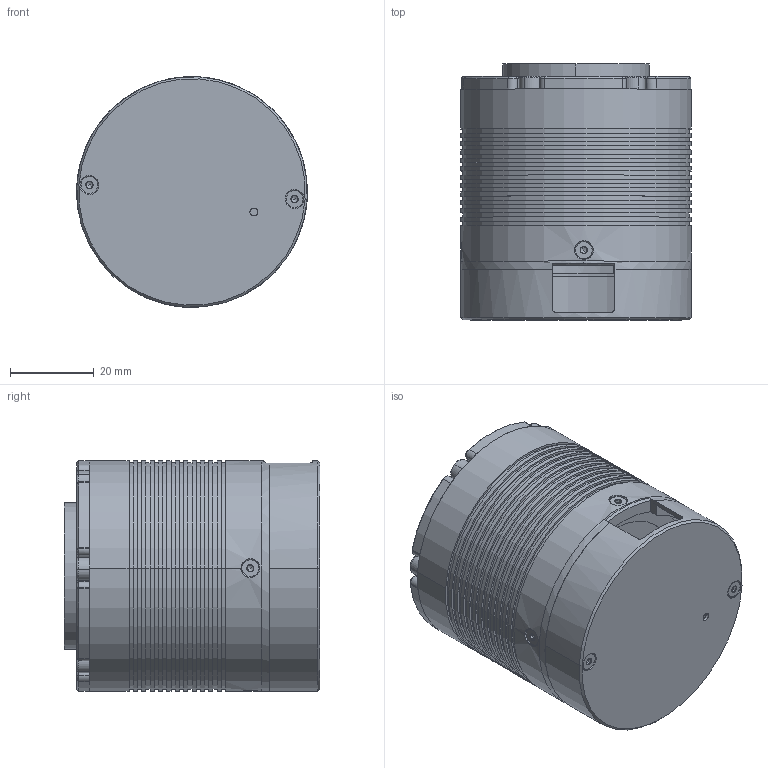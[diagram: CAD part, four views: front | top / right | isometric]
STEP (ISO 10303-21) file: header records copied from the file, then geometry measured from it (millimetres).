
FILE_DESCRIPTION (( 'STEP AP203' ), '1' );
FILE_NAME ('X4-P36-36.STEP', '2025-10-23T04:12:23', ( '微软用户' ), ( '微软中国' ), 'SwSTEP 2.0', 'SolidWorks 2020', '' );
FILE_SCHEMA (( 'CONFIG_CONTROL_DESIGN' ));
Length unit declared in the file: millimetre
Products named in the file (10): XMT.105.027; X4-P36-36; 8MT.013.030; 8MT.034.008; M2X4; XMT.105.019; XMT.105.003; XMT.105.011_Default<偌樓馱>; M2X12; GB_FASTENER_SCREWS_HSHCS M3X12-C_GB_FASTENER_SCREWS_HSHCS M3X12-C
Assembly tree (20 placements, depth 2):
  X4-P36-36
    8MT.034.008
    XMT.105.003
    XMT.105.019
    XMT.105.027
    8MT.013.030
    XMT.105.011_Default<偌樓馱>
    GB_FASTENER_SCREWS_HSHCS M3X12-C_GB_FASTENER_SCREWS_HSHCS M3X12-C  x6
    M2X12  x2
    M2X4  x6
Bounding box: 55 x 61 x 55 mm (x, y, z)
Volume: 39687.2 mm3; surface area: 49798.7 mm2
Topology: 20 solids, 20 shells, 1035 faces, 2476 edges, 1476 vertices
Faces by surface type: cylinder 430, plane 296, cone 281, bspline 16, torus 12
Entity records: 24435 total; most frequent: CARTESIAN_POINT 4869, DIRECTION 4127, ORIENTED_EDGE 3608, EDGE_CURVE 1804, AXIS2_PLACEMENT_3D 1679, VERTEX_POINT 1137, CIRCLE 912, EDGE_LOOP 889
